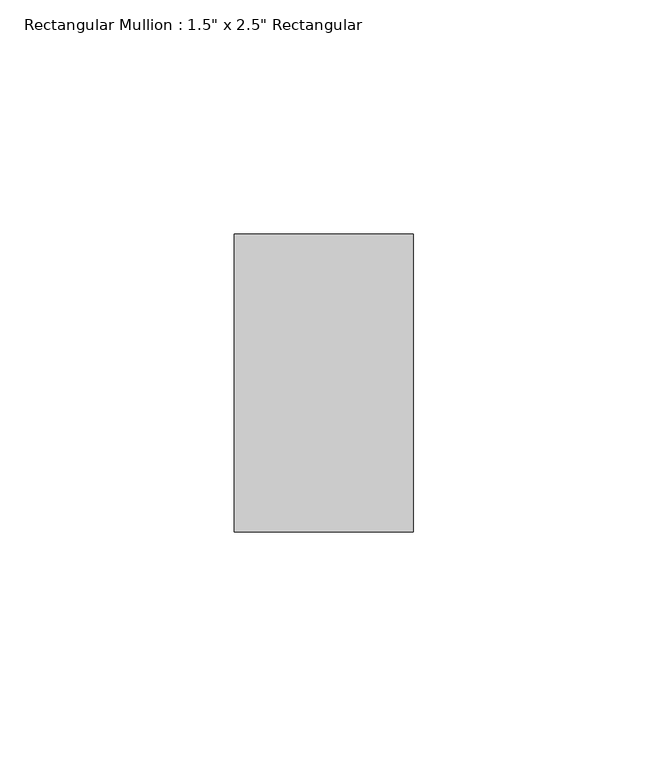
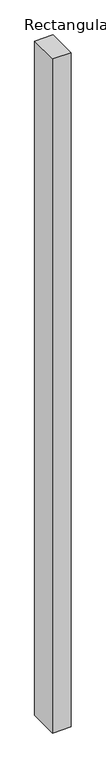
"""IFC4 building model written with IfcOpenShell, lengths in millimetres: member geometry."""

from ifc_helpers import new_model, si_unit, frame, origin, place, context, project, spatial, polyline, outline, extrude, source, transform, mapped, element, save


def member_f5090587(model_context):
    return source(origin(), model_context, "Body", "SweptSolid", [
        extrude(outline(polyline([(19.05, 31.75), (19.05, -31.75), (-19.05, -31.75), (-19.05, 31.75), (19.05, 31.75)])), frame((0.0, 0.0, -1466.85), z_axis=(0.0, 0.0, 1.0), x_axis=(1.0, 0.0, 0.0)), (0.0, 0.0, 1.0), 1466.85),
    ])


if __name__ == "__main__":
    model = new_model("IFC4")
    model_context = context("Model", 3, world=origin())
    ifc_project = project(units=[si_unit("LENGTHUNIT", "METRE", prefix="MILLI")], contexts=[model_context])
    site = spatial("IfcSite", under=ifc_project)
    building = spatial("IfcBuilding", under=site)
    placement = place(None, origin())
    member_shape = member_f5090587(model_context)
    element("IfcMember", 1, ObjectType="Rectangular Mullion : 1.5\" x 2.5\" Rectangular", at=placement, inside=building, context=model_context, shape_type="MappedRepresentation", body=[
        mapped(member_shape, transform((0.0, 0.0, 0.0), x_axis=(1.0, 0.0, 0.0), y_axis=(0.0, 1.0, 0.0), z_axis=(0.0, 0.0, 1.0))),
    ])
    save(model, "model.ifc")
